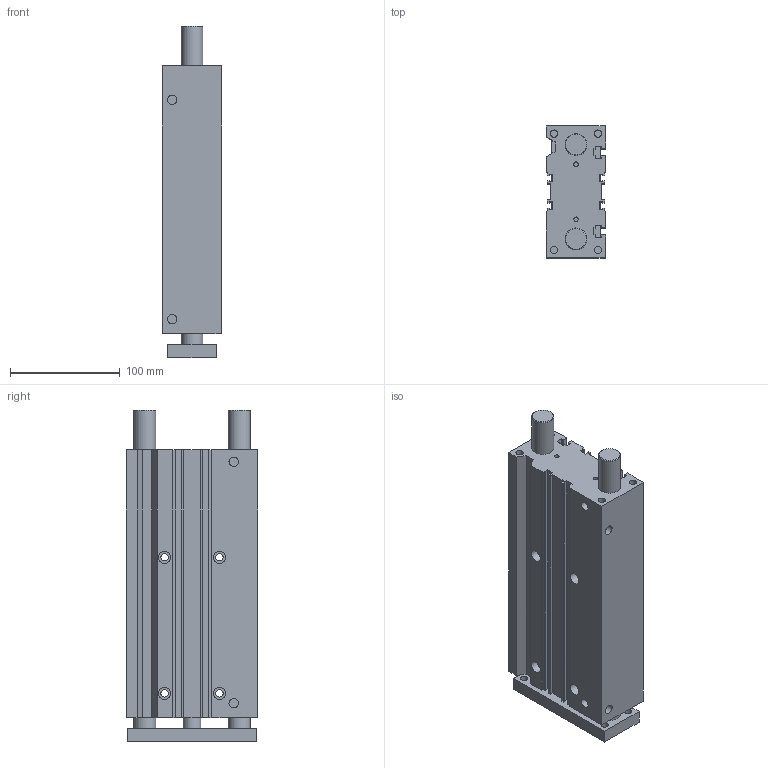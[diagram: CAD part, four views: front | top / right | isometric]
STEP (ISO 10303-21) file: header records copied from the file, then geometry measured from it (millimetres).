
FILE_DESCRIPTION((''),'2;1');
FILE_NAME('I:\Area Tecnica\Disegni\VARIE-3D\Componenti\6100\6100 Ø20-63\6100_##_###_#\6100400200B.stp','2012-01-11T09:11:54',('airolcr1'),(''),'Autodesk Inventor 2012','Autodesk Inventor 2012','');
FILE_SCHEMA(('AUTOMOTIVE_DESIGN { 1 0 10303 214 1 1 1 1 }'));
Length unit declared in the file: millimetre
Products named in the file (3): 6100400200B; CORPO Ø40 C200 B; PIASTRA Ø40 C200 B
Assembly tree (2 placements, depth 2):
  6100400200B
    CORPO Ø40 C200 B
    PIASTRA Ø40 C200 B
Bounding box: 54 x 120 x 302 mm (x, y, z)
Volume: 1547852.5 mm3; surface area: 230338.7 mm2
Topology: 2 solids, 2 shells, 166 faces, 417 edges, 277 vertices
Faces by surface type: plane 126, cylinder 38, cone 2
Full cylindrical faces by diameter (mm): 4 x6, 6.647 x8, 6.65 x4, 8.566 x4, 11 x4, 16 x2, 20 x4
Entity records: 5013 total; most frequent: CARTESIAN_POINT 815, DIRECTION 798, ORIENTED_EDGE 750, EDGE_CURVE 375, VECTOR 294, LINE 294, VERTEX_POINT 269, AXIS2_PLACEMENT_3D 252
